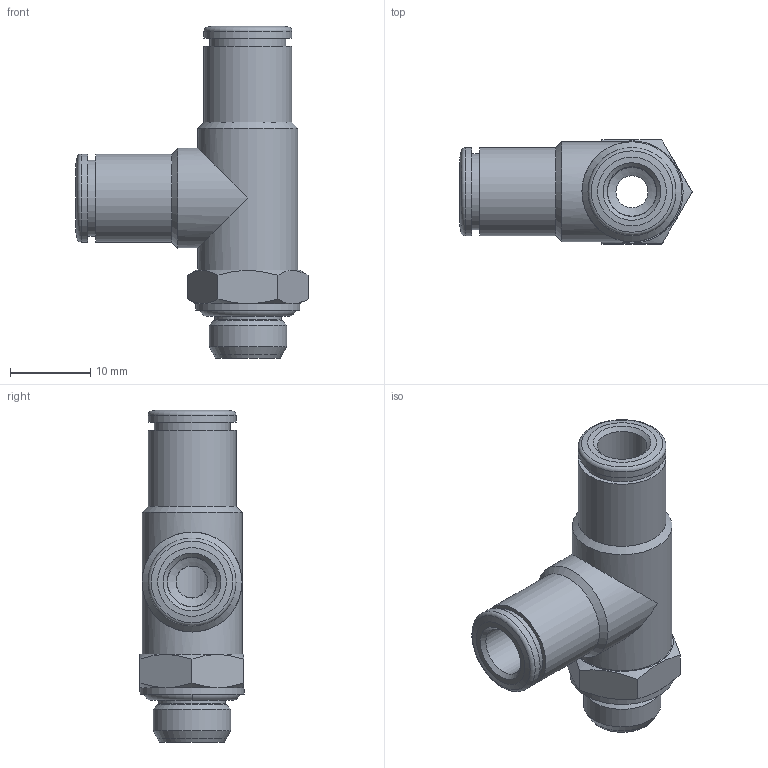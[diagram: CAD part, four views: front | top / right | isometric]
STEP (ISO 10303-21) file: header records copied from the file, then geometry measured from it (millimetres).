
FILE_DESCRIPTION(('Bauteilbeschreibung','HiCAD-Model','HiCAD-STEP-TRANSLATION','Bauteilbeschreibung'),'2;1');
FILE_NAME('B:/ABGLEICH/ZEICHNUNGEN/STEP FÜR INTERNET/STEP/IPSO 021/202103_IPSO_021_6_1-8.STP','2011-09-28T08:30:42+00:00',('Konstrukteur'),('Konstrukteur Firma GmbH'),' HiCAD neXt 2008, Step 3.1.1401.2J ','HiCAD neXt 2008','confidential');
FILE_SCHEMA(('AUTOMOTIVE_DESIGN { 1 2 10303 214 0 1 1 1 }'));
Length unit declared in the file: millimetre
Products named in the file (8): A02103_IPSO_021_6_1_8; OR 7_2X1_9; A14602_N2_GEW___1_8_1_8; A146020N20GEW0001080108; G 1_8; R202103_N; DR6_1_NEU; DR6010NEU
Assembly tree (7 placements, depth 3):
  A02103_IPSO_021_6_1_8
    OR 7_2X1_9
    A14602_N2_GEW___1_8_1_8
    A146020N20GEW0001080108
      G 1_8
    R202103_N
    DR6_1_NEU
    DR6010NEU
Bounding box: 29.01 x 13 x 41.5 mm (x, y, z)
Volume: 4122.1 mm3; surface area: 5411.8 mm2
Topology: 6 solids, 6 shells, 98 faces, 203 edges, 122 vertices
Faces by surface type: cone 35, cylinder 31, plane 24, torus 8
Full cylindrical faces by diameter (mm): 4 x2, 5.5 x1, 6 x1, 6.1 x2, 6.2 x2, 8.3 x3, 8.566 x2, 9 x4, 9.5 x2, 9.6 x2, 9.728 x1, 10.1 x2, 11 x4, 12.5 x2, 13 x1
Entity records: 3562 total; most frequent: CARTESIAN_POINT 1047, DIRECTION 422, ORIENTED_EDGE 242, AXIS2_PLACEMENT_3D 208, EDGE_LOOP 182, EDGE_CURVE 121, COLOUR_RGB 118, PRESENTATION_STYLE_ASSIGNMENT 118
